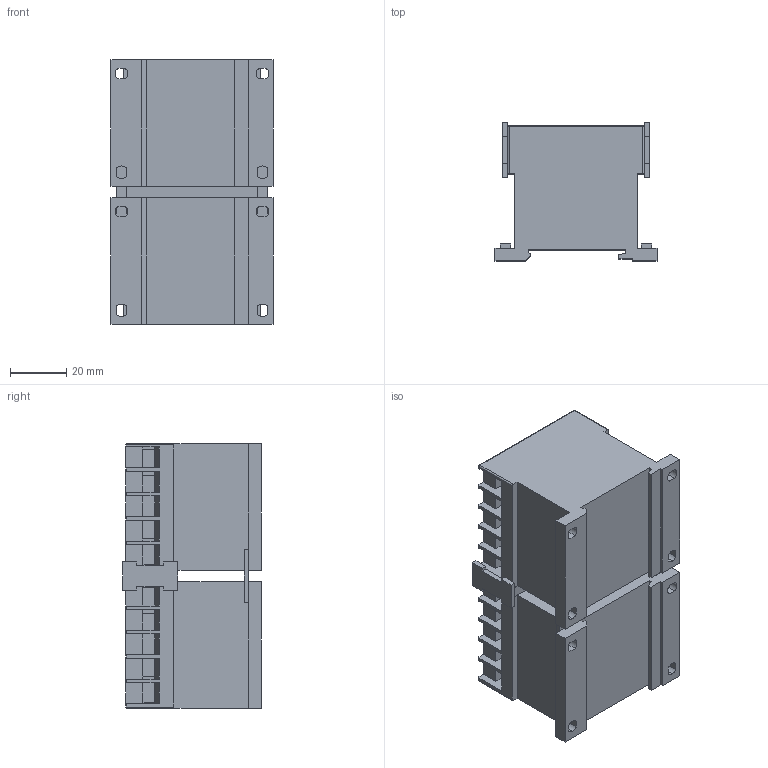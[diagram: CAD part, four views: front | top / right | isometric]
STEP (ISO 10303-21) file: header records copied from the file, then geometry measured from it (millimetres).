
FILE_DESCRIPTION (( 'STEP AP203' ), '1' );
FILE_NAME ('K1W09_12D00-40M.STEP', '2014-03-11T04:59:52', ( '' ), ( '' ), 'SwSTEP 2.0', 'SolidWorks 2014', '' );
FILE_SCHEMA (( 'CONFIG_CONTROL_DESIGN' ));
Length unit declared in the file: millimetre
Products named in the file (3): Imported_2; K1W09_12D00-40M; Imported
Assembly tree (2 placements, depth 2):
  K1W09_12D00-40M
    Imported
    Imported_2
Bounding box: 57.5 x 49.2 x 94 mm (x, y, z)
Volume: 180051.6 mm3; surface area: 37899 mm2
Topology: 2 solids, 2 shells, 387 faces, 1175 edges, 772 vertices
Faces by surface type: plane 296, cylinder 84, bspline 7
Entity records: 13548 total; most frequent: CARTESIAN_POINT 2456, ORIENTED_EDGE 2350, DIRECTION 2142, EDGE_CURVE 1175, LINE 970, VECTOR 970, VERTEX_POINT 772, AXIS2_PLACEMENT_3D 586
